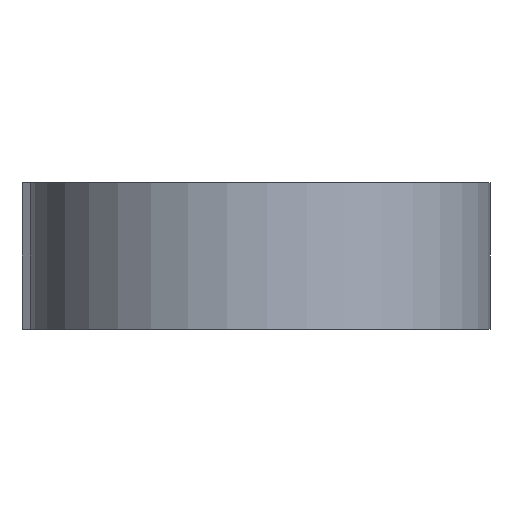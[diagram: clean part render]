
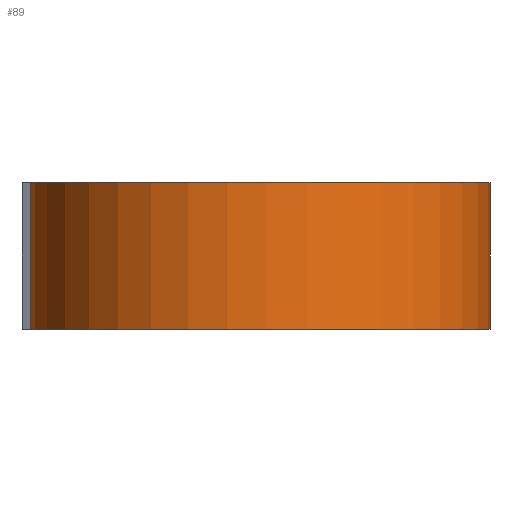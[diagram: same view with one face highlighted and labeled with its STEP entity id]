
A CAD part, front view. The second image highlights one B-rep face of the part: STEP entity #89.
In plain terms, the highlighted cylindrical face has radius 15.75 mm (diameter 31.5 mm), a partial arc.
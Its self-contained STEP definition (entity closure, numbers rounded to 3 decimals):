
#89 = ADVANCED_FACE( '', ( #129 ), #130, .T. );
#129 = FACE_OUTER_BOUND( '', #179, .T. );
#130 = CYLINDRICAL_SURFACE( '', #180, 15.75 );
#179 = EDGE_LOOP( '', ( #337, #338, #339, #340 ) );
#180 = AXIS2_PLACEMENT_3D( '', #341, #342, #343 );
#337 = ORIENTED_EDGE( '', *, *, #464, .T. );
#338 = ORIENTED_EDGE( '', *, *, #475, .F. );
#339 = ORIENTED_EDGE( '', *, *, #441, .F. );
#340 = ORIENTED_EDGE( '', *, *, #447, .T. );
#341 = CARTESIAN_POINT( '', ( 0., 0., 0. ) );
#342 = DIRECTION( '', ( 0., 0., -1. ) );
#343 = DIRECTION( '', ( 1., 0., 0. ) );
#441 = EDGE_CURVE( '', #534, #536, #537, .T. );
#447 = EDGE_CURVE( '', #534, #544, #546, .T. );
#464 = EDGE_CURVE( '', #544, #570, #572, .T. );
#475 = EDGE_CURVE( '', #536, #570, #590, .T. );
#534 = VERTEX_POINT( '', #670 );
#536 = VERTEX_POINT( '', #673 );
#537 = CIRCLE( '', #674, 15.75 );
#544 = VERTEX_POINT( '', #685 );
#546 = LINE( '', #688, #689 );
#570 = VERTEX_POINT( '', #726 );
#572 = CIRCLE( '', #729, 15.75 );
#590 = LINE( '', #756, #757 );
#670 = CARTESIAN_POINT( '', ( -8.385, 13.333, 10. ) );
#673 = CARTESIAN_POINT( '', ( 9.84, 12.298, 10. ) );
#674 = AXIS2_PLACEMENT_3D( '', #809, #810, #811 );
#685 = CARTESIAN_POINT( '', ( -8.385, 13.333, 0. ) );
#688 = CARTESIAN_POINT( '', ( -8.385, 13.333, 0. ) );
#689 = VECTOR( '', #817, 1000. );
#726 = CARTESIAN_POINT( '', ( 9.84, 12.298, 0. ) );
#729 = AXIS2_PLACEMENT_3D( '', #838, #839, #840 );
#756 = CARTESIAN_POINT( '', ( 9.84, 12.298, 0. ) );
#757 = VECTOR( '', #853, 1000. );
#809 = CARTESIAN_POINT( '', ( 0., 0., 10. ) );
#810 = DIRECTION( '', ( 0., 0., 1. ) );
#811 = DIRECTION( '', ( 1., 0., 0. ) );
#817 = DIRECTION( '', ( 0., 0., -1. ) );
#838 = CARTESIAN_POINT( '', ( 0., 0., 0. ) );
#839 = DIRECTION( '', ( 0., 0., 1. ) );
#840 = DIRECTION( '', ( 1., 0., 0. ) );
#853 = DIRECTION( '', ( 0., 0., -1. ) );
